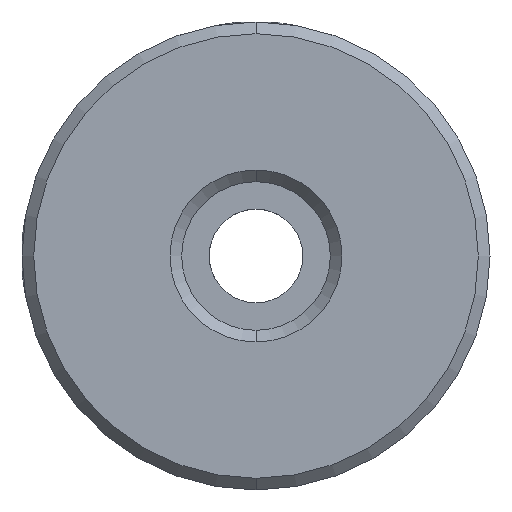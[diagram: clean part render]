
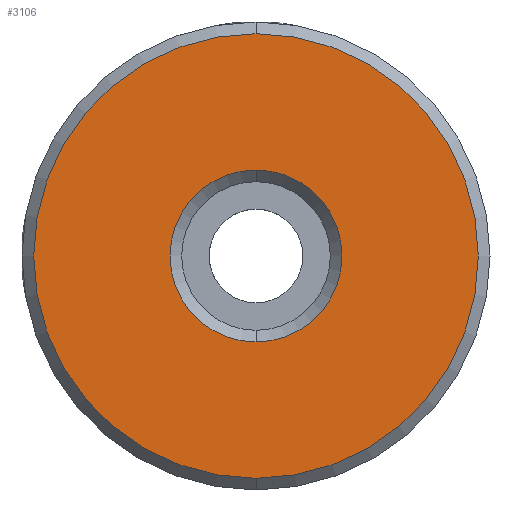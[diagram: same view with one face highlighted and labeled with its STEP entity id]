
A CAD part, front view. The second image highlights one B-rep face of the part: STEP entity #3106.
In plain terms, the highlighted planar face has unit normal (0, -1, 0).
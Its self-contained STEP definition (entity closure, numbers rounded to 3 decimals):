
#34 = AXIS2_PLACEMENT_3D ( 'NONE', #688, #139, #3196 ) ;
#42 = DIRECTION ( 'NONE',  ( 0., 1., 0. ) ) ;
#117 = EDGE_CURVE ( 'NONE', #3357, #3525, #3538, .T. ) ;
#139 = DIRECTION ( 'NONE',  ( 0., 1., 0. ) ) ;
#188 = DIRECTION ( 'NONE',  ( 0., 0., 1. ) ) ;
#273 = FACE_OUTER_BOUND ( 'NONE', #2783, .T. ) ;
#304 = CARTESIAN_POINT ( 'NONE',  ( -10.188, -0.277, -9.454 ) ) ;
#400 = CIRCLE ( 'NONE', #2001, 3.675 ) ;
#456 = AXIS2_PLACEMENT_3D ( 'NONE', #892, #42, #2356 ) ;
#668 = VERTEX_POINT ( 'NONE', #2007 ) ;
#688 = CARTESIAN_POINT ( 'NONE',  ( -10.188, -0.277, 0.046 ) ) ;
#751 = CIRCLE ( 'NONE', #860, 9.5 ) ;
#767 = CARTESIAN_POINT ( 'NONE',  ( -10.188, -0.277, -3.629 ) ) ;
#860 = AXIS2_PLACEMENT_3D ( 'NONE', #2090, #2123, #1004 ) ;
#892 = CARTESIAN_POINT ( 'NONE',  ( -10.188, -0.277, 0.046 ) ) ;
#1004 = DIRECTION ( 'NONE',  ( 0., 0., 1. ) ) ;
#1050 = CARTESIAN_POINT ( 'NONE',  ( -10.188, -0.277, 0.046 ) ) ;
#1370 = DIRECTION ( 'NONE',  ( 0., -1., 0. ) ) ;
#1480 = PLANE ( 'NONE',  #456 ) ;
#1538 = EDGE_CURVE ( 'NONE', #1737, #668, #3156, .T. ) ;
#1683 = ORIENTED_EDGE ( 'NONE', *, *, #1538, .T. ) ;
#1737 = VERTEX_POINT ( 'NONE', #767 ) ;
#1963 = AXIS2_PLACEMENT_3D ( 'NONE', #1050, #1370, #188 ) ;
#2001 = AXIS2_PLACEMENT_3D ( 'NONE', #3329, #3281, #2475 ) ;
#2007 = CARTESIAN_POINT ( 'NONE',  ( -10.188, -0.277, 3.721 ) ) ;
#2090 = CARTESIAN_POINT ( 'NONE',  ( -10.188, -0.277, 0.046 ) ) ;
#2123 = DIRECTION ( 'NONE',  ( 0., -1., 0. ) ) ;
#2293 = ORIENTED_EDGE ( 'NONE', *, *, #2687, .T. ) ;
#2356 = DIRECTION ( 'NONE',  ( 0., 0., 1. ) ) ;
#2412 = EDGE_LOOP ( 'NONE', ( #1683, #2542 ) ) ;
#2475 = DIRECTION ( 'NONE',  ( 0., 0., 1. ) ) ;
#2542 = ORIENTED_EDGE ( 'NONE', *, *, #2795, .T. ) ;
#2687 = EDGE_CURVE ( 'NONE', #3525, #3357, #751, .T. ) ;
#2783 = EDGE_LOOP ( 'NONE', ( #2293, #2865 ) ) ;
#2795 = EDGE_CURVE ( 'NONE', #668, #1737, #400, .T. ) ;
#2865 = ORIENTED_EDGE ( 'NONE', *, *, #117, .T. ) ;
#2909 = CARTESIAN_POINT ( 'NONE',  ( -10.188, -0.277, 9.546 ) ) ;
#3106 = ADVANCED_FACE ( 'NONE', ( #273, #3409 ), #1480, .F. ) ;
#3156 = CIRCLE ( 'NONE', #34, 3.675 ) ;
#3196 = DIRECTION ( 'NONE',  ( 0., 0., 1. ) ) ;
#3281 = DIRECTION ( 'NONE',  ( 0., 1., 0. ) ) ;
#3329 = CARTESIAN_POINT ( 'NONE',  ( -10.188, -0.277, 0.046 ) ) ;
#3357 = VERTEX_POINT ( 'NONE', #304 ) ;
#3409 = FACE_BOUND ( 'NONE', #2412, .T. ) ;
#3525 = VERTEX_POINT ( 'NONE', #2909 ) ;
#3538 = CIRCLE ( 'NONE', #1963, 9.5 ) ;
